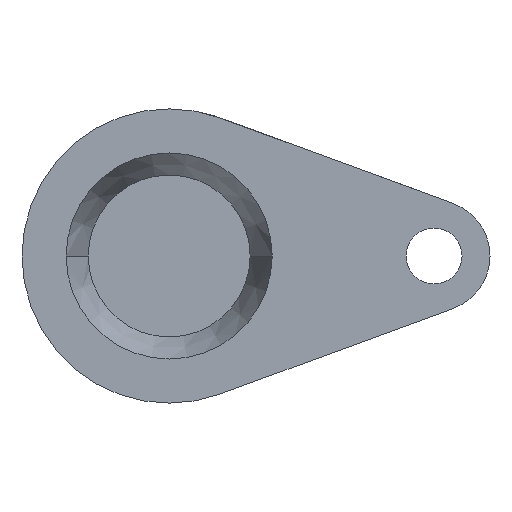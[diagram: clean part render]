
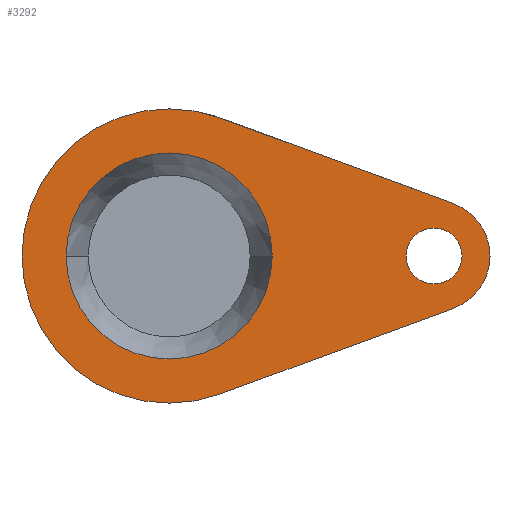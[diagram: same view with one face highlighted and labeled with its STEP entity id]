
A CAD part, front view. The second image highlights one B-rep face of the part: STEP entity #3292.
In plain terms, the highlighted planar face has unit normal (0, -1, 0).
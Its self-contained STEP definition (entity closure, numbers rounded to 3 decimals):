
#67 = EDGE_CURVE ( 'NONE', #2342, #1142, #3284, .T. ) ;
#136 = CARTESIAN_POINT ( 'NONE',  ( 90., -33., 0. ) ) ;
#170 = CARTESIAN_POINT ( 'NONE',  ( 0., -33., 0. ) ) ;
#183 = CARTESIAN_POINT ( 'NONE',  ( 17.222, -33., 46.94 ) ) ;
#280 = VERTEX_POINT ( 'NONE', #295 ) ;
#295 = CARTESIAN_POINT ( 'NONE',  ( 96.544, -33., -17.837 ) ) ;
#389 = ORIENTED_EDGE ( 'NONE', *, *, #485, .T. ) ;
#409 = EDGE_LOOP ( 'NONE', ( #389, #3472 ) ) ;
#417 = ORIENTED_EDGE ( 'NONE', *, *, #67, .T. ) ;
#468 = FACE_BOUND ( 'NONE', #409, .T. ) ;
#485 = EDGE_CURVE ( 'NONE', #3125, #1808, #4066, .T. ) ;
#492 = PLANE ( 'NONE',  #1067 ) ;
#548 = DIRECTION ( 'NONE',  ( 0., 1., 0. ) ) ;
#572 = ORIENTED_EDGE ( 'NONE', *, *, #600, .F. ) ;
#600 = EDGE_CURVE ( 'NONE', #280, #4398, #4025, .T. ) ;
#602 = ORIENTED_EDGE ( 'NONE', *, *, #1523, .F. ) ;
#707 = CARTESIAN_POINT ( 'NONE',  ( 35., -33., 0. ) ) ;
#874 = AXIS2_PLACEMENT_3D ( 'NONE', #3851, #1992, #3501 ) ;
#956 = CARTESIAN_POINT ( 'NONE',  ( 109., -33., 0. ) ) ;
#1067 = AXIS2_PLACEMENT_3D ( 'NONE', #3893, #2351, #3849 ) ;
#1095 = DIRECTION ( 'NONE',  ( 0., 1., 0. ) ) ;
#1141 = AXIS2_PLACEMENT_3D ( 'NONE', #1789, #2491, #3248 ) ;
#1142 = VERTEX_POINT ( 'NONE', #3274 ) ;
#1165 = AXIS2_PLACEMENT_3D ( 'NONE', #4337, #548, #2432 ) ;
#1211 = DIRECTION ( 'NONE',  ( -1., 0., 0. ) ) ;
#1246 = CIRCLE ( 'NONE', #1165, 19. ) ;
#1247 = VERTEX_POINT ( 'NONE', #956 ) ;
#1279 = DIRECTION ( 'NONE',  ( 0., 1., 0. ) ) ;
#1375 = DIRECTION ( 'NONE',  ( 0., 1., 0. ) ) ;
#1382 = CIRCLE ( 'NONE', #4027, 35. ) ;
#1425 = DIRECTION ( 'NONE',  ( -1., 0., 0. ) ) ;
#1471 = CARTESIAN_POINT ( 'NONE',  ( 96.544, -33., 17.837 ) ) ;
#1523 = EDGE_CURVE ( 'NONE', #2588, #1247, #4655, .T. ) ;
#1597 = CIRCLE ( 'NONE', #1987, 9.5 ) ;
#1633 = DIRECTION ( 'NONE',  ( 0., 1., 0. ) ) ;
#1680 = DIRECTION ( 'NONE',  ( 0.939, 0., -0.344 ) ) ;
#1789 = CARTESIAN_POINT ( 'NONE',  ( 90., -33., 0. ) ) ;
#1808 = VERTEX_POINT ( 'NONE', #3569 ) ;
#1932 = EDGE_CURVE ( 'NONE', #1142, #2342, #1597, .T. ) ;
#1987 = AXIS2_PLACEMENT_3D ( 'NONE', #2559, #1095, #4849 ) ;
#1992 = DIRECTION ( 'NONE',  ( 0., -1., 0. ) ) ;
#2061 = VECTOR ( 'NONE', #1680, 1000. ) ;
#2211 = EDGE_CURVE ( 'NONE', #4293, #2588, #3541, .T. ) ;
#2278 = VECTOR ( 'NONE', #4702, 1000. ) ;
#2342 = VERTEX_POINT ( 'NONE', #4090 ) ;
#2351 = DIRECTION ( 'NONE',  ( 0., -1., 0. ) ) ;
#2407 = DIRECTION ( 'NONE',  ( -1., 0., 0. ) ) ;
#2432 = DIRECTION ( 'NONE',  ( -1., 0., 0. ) ) ;
#2491 = DIRECTION ( 'NONE',  ( 0., 1., 0. ) ) ;
#2559 = CARTESIAN_POINT ( 'NONE',  ( 90., -33., 0. ) ) ;
#2588 = VERTEX_POINT ( 'NONE', #1471 ) ;
#2717 = FACE_OUTER_BOUND ( 'NONE', #3516, .T. ) ;
#3060 = EDGE_CURVE ( 'NONE', #1808, #3125, #1382, .T. ) ;
#3125 = VERTEX_POINT ( 'NONE', #707 ) ;
#3211 = AXIS2_PLACEMENT_3D ( 'NONE', #170, #1279, #1211 ) ;
#3248 = DIRECTION ( 'NONE',  ( -1., 0., 0. ) ) ;
#3274 = CARTESIAN_POINT ( 'NONE',  ( 80.5, -33., 0. ) ) ;
#3284 = CIRCLE ( 'NONE', #3527, 9.5 ) ;
#3292 = ADVANCED_FACE ( 'NONE', ( #468, #3457, #2717 ), #492, .T. ) ;
#3457 = FACE_BOUND ( 'NONE', #3997, .T. ) ;
#3472 = ORIENTED_EDGE ( 'NONE', *, *, #3060, .T. ) ;
#3501 = DIRECTION ( 'NONE',  ( 1., 0., 0. ) ) ;
#3516 = EDGE_LOOP ( 'NONE', ( #3664, #572, #4495, #602, #3767 ) ) ;
#3527 = AXIS2_PLACEMENT_3D ( 'NONE', #136, #1633, #2407 ) ;
#3541 = LINE ( 'NONE', #183, #2061 ) ;
#3569 = CARTESIAN_POINT ( 'NONE',  ( -35., -33., 0. ) ) ;
#3619 = CARTESIAN_POINT ( 'NONE',  ( 17.222, -33., -46.94 ) ) ;
#3664 = ORIENTED_EDGE ( 'NONE', *, *, #4224, .T. ) ;
#3672 = CARTESIAN_POINT ( 'NONE',  ( 0., -33., 0. ) ) ;
#3767 = ORIENTED_EDGE ( 'NONE', *, *, #2211, .F. ) ;
#3849 = DIRECTION ( 'NONE',  ( 1., 0., 0. ) ) ;
#3851 = CARTESIAN_POINT ( 'NONE',  ( 0., -33., 0. ) ) ;
#3893 = CARTESIAN_POINT ( 'NONE',  ( 50., -33., 0. ) ) ;
#3997 = EDGE_LOOP ( 'NONE', ( #4344, #417 ) ) ;
#4025 = LINE ( 'NONE', #3619, #2278 ) ;
#4027 = AXIS2_PLACEMENT_3D ( 'NONE', #3672, #1375, #1425 ) ;
#4066 = CIRCLE ( 'NONE', #3211, 35. ) ;
#4090 = CARTESIAN_POINT ( 'NONE',  ( 99.5, -33., 0. ) ) ;
#4224 = EDGE_CURVE ( 'NONE', #4293, #4398, #4384, .T. ) ;
#4293 = VERTEX_POINT ( 'NONE', #4353 ) ;
#4337 = CARTESIAN_POINT ( 'NONE',  ( 90., -33., 0. ) ) ;
#4344 = ORIENTED_EDGE ( 'NONE', *, *, #1932, .T. ) ;
#4353 = CARTESIAN_POINT ( 'NONE',  ( 17.222, -33., 46.94 ) ) ;
#4384 = CIRCLE ( 'NONE', #874, 50. ) ;
#4398 = VERTEX_POINT ( 'NONE', #4531 ) ;
#4495 = ORIENTED_EDGE ( 'NONE', *, *, #4818, .F. ) ;
#4531 = CARTESIAN_POINT ( 'NONE',  ( 17.222, -33., -46.94 ) ) ;
#4655 = CIRCLE ( 'NONE', #1141, 19. ) ;
#4702 = DIRECTION ( 'NONE',  ( -0.939, 0., -0.344 ) ) ;
#4818 = EDGE_CURVE ( 'NONE', #1247, #280, #1246, .T. ) ;
#4849 = DIRECTION ( 'NONE',  ( -1., 0., 0. ) ) ;
